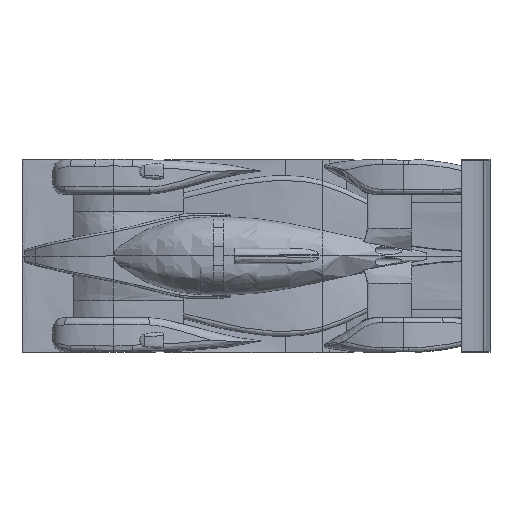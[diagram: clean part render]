
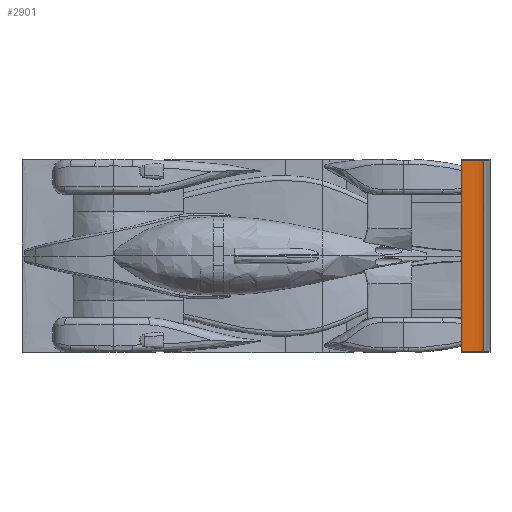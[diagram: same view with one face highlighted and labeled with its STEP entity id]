
A CAD part, top view. The second image highlights one B-rep face of the part: STEP entity #2901.
In plain terms, the highlighted free-form (B-spline) face has degree [3, 1] with [4, 2] control points.
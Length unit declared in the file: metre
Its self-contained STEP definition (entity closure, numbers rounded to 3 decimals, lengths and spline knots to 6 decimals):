
#2901=ADVANCED_FACE('1731:28213',(#5487),#5488,.F.);
#5487=FACE_OUTER_BOUND('',#40050,.T.);
#5488=B_SPLINE_SURFACE_WITH_KNOTS('',3,1,((#40051,#40052),(#40053,#40054),(#40055,#40056),(#40057,#40058)),.UNSPECIFIED.,.F.,.F.,.F.,(4,4),(2,2),(0.0,0.98162),(0.0,1.0),.UNSPECIFIED.);
#40050=EDGE_LOOP('',(#46572,#46573,#46574,#46575));
#40051=CARTESIAN_POINT('',(3.85,-0.99,0.9));
#40052=CARTESIAN_POINT('',(3.85,0.99,0.9));
#40053=CARTESIAN_POINT('',(3.754346,-0.99,0.857412));
#40054=CARTESIAN_POINT('',(3.754346,0.99,0.857412));
#40055=CARTESIAN_POINT('',(3.621649,-0.99,0.902161));
#40056=CARTESIAN_POINT('',(3.621649,0.99,0.902161));
#40057=CARTESIAN_POINT('',(3.601039,-0.99,0.876516));
#40058=CARTESIAN_POINT('',(3.601039,0.99,0.876516));
#46572=ORIENTED_EDGE('',*,*,#49686,.F.);
#46573=ORIENTED_EDGE('',*,*,#49674,.T.);
#46574=ORIENTED_EDGE('',*,*,#49689,.T.);
#46575=ORIENTED_EDGE('',*,*,#49690,.T.);
#49674=EDGE_CURVE('1731:28360',#53978,#53980,#53982,.T.);
#49686=EDGE_CURVE('1731:28393',#53978,#54002,#54003,.T.);
#49689=EDGE_CURVE('1731:28399',#53980,#54006,#54007,.T.);
#49690=EDGE_CURVE('1731:28402',#54006,#54002,#54008,.T.);
#53978=VERTEX_POINT('NONE',#92579);
#53980=VERTEX_POINT('NONE',#92584);
#53982=LINE('',#92589,#92590);
#54002=VERTEX_POINT('NONE',#92646);
#54003=B_SPLINE_CURVE_WITH_KNOTS('',3,(#92647,#92648,#92649,#92650),.UNSPECIFIED.,.F.,.F.,(4,4),(0.0,0.98162),.UNSPECIFIED.);
#54006=VERTEX_POINT('NONE',#92653);
#54007=B_SPLINE_CURVE_WITH_KNOTS('',3,(#92654,#92655,#92656,#92657),.UNSPECIFIED.,.F.,.F.,(4,4),(0.0,0.98162),.UNSPECIFIED.);
#54008=LINE('',#92658,#92659);
#92579=CARTESIAN_POINT('',(3.85,-0.99,0.9));
#92584=CARTESIAN_POINT('',(3.85,0.99,0.9));
#92589=CARTESIAN_POINT('',(3.85,-1.255749,0.9));
#92590=VECTOR('',#94534,1.0);
#92646=CARTESIAN_POINT('',(3.601039,-0.99,0.876516));
#92647=CARTESIAN_POINT('',(3.85,-0.99,0.9));
#92648=CARTESIAN_POINT('',(3.754346,-0.99,0.857412));
#92649=CARTESIAN_POINT('',(3.621649,-0.99,0.902161));
#92650=CARTESIAN_POINT('',(3.601039,-0.99,0.876516));
#92653=CARTESIAN_POINT('',(3.601039,0.99,0.876516));
#92654=CARTESIAN_POINT('',(3.85,0.99,0.9));
#92655=CARTESIAN_POINT('',(3.754346,0.99,0.857412));
#92656=CARTESIAN_POINT('',(3.621649,0.99,0.902161));
#92657=CARTESIAN_POINT('',(3.601039,0.99,0.876516));
#92658=CARTESIAN_POINT('',(3.601039,0.,0.876516));
#92659=VECTOR('',#94544,1.0);
#94534=DIRECTION('',(-0.0,1.0,0.0));
#94544=DIRECTION('',(0.0,-1.0,0.0));
